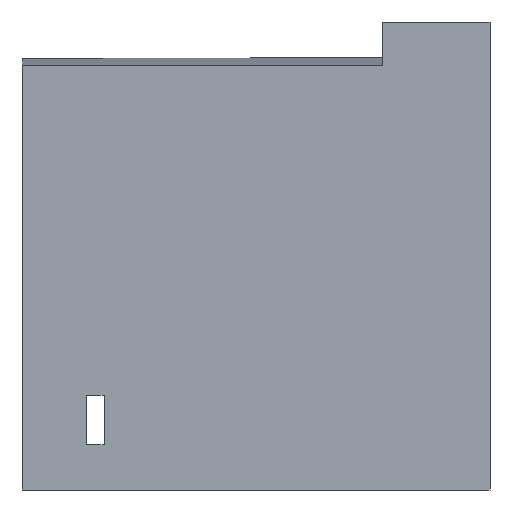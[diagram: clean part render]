
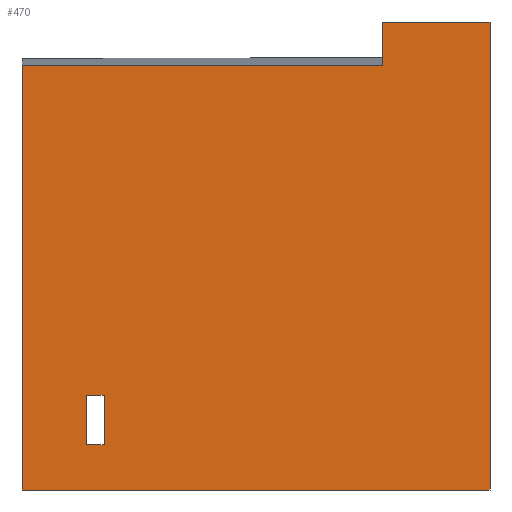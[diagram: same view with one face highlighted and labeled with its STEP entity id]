
A CAD part, front view. The second image highlights one B-rep face of the part: STEP entity #470.
In plain terms, the highlighted planar face has unit normal (0, -1, 0).
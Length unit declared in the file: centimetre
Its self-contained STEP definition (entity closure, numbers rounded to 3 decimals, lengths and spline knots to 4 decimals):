
#1 = EDGE_LOOP ( 'NONE', ( #1024, #843, #781, #1535, #1311, #383 ) ) ;
#43 = CARTESIAN_POINT ( 'NONE',  ( 0., 0., 0. ) ) ;
#44 = EDGE_CURVE ( 'NONE', #1164, #145, #1074, .T. ) ;
#61 = VERTEX_POINT ( 'NONE', #247 ) ;
#63 = EDGE_CURVE ( 'NONE', #225, #579, #1570, .T. ) ;
#71 = DIRECTION ( 'NONE',  ( 0., 1., 0. ) ) ;
#81 = DIRECTION ( 'NONE',  ( 0., 0., -1. ) ) ;
#132 = VECTOR ( 'NONE', #1415, 100. ) ;
#145 = VERTEX_POINT ( 'NONE', #753 ) ;
#152 = VECTOR ( 'NONE', #505, 100. ) ;
#158 = VERTEX_POINT ( 'NONE', #1240 ) ;
#171 = FACE_BOUND ( 'NONE', #738, .T. ) ;
#182 = AXIS2_PLACEMENT_3D ( 'NONE', #911, #71, #1268 ) ;
#183 = FACE_OUTER_BOUND ( 'NONE', #1, .T. ) ;
#186 = LINE ( 'NONE', #1178, #479 ) ;
#225 = VERTEX_POINT ( 'NONE', #43 ) ;
#247 = CARTESIAN_POINT ( 'NONE',  ( 175.5709, 0., 202.4212 ) ) ;
#249 = CARTESIAN_POINT ( 'NONE',  ( 770.0645, 0., 907.4192 ) ) ;
#262 = CARTESIAN_POINT ( 'NONE',  ( 1000., 0., 1000. ) ) ;
#282 = CARTESIAN_POINT ( 'NONE',  ( 137.1264, 0., 97.1474 ) ) ;
#361 = VECTOR ( 'NONE', #1482, 100. ) ;
#381 = CARTESIAN_POINT ( 'NONE',  ( 137.1264, 0., 97.1474 ) ) ;
#383 = ORIENTED_EDGE ( 'NONE', *, *, #817, .F. ) ;
#425 = CARTESIAN_POINT ( 'NONE',  ( 1000., 0., 1000. ) ) ;
#436 = LINE ( 'NONE', #538, #132 ) ;
#450 = EDGE_CURVE ( 'NONE', #61, #900, #1400, .T. ) ;
#470 = ADVANCED_FACE ( 'NONE', ( #171, #183 ), #653, .F. ) ;
#479 = VECTOR ( 'NONE', #809, 100. ) ;
#484 = CARTESIAN_POINT ( 'NONE',  ( 137.1264, 0., 202.4212 ) ) ;
#489 = EDGE_CURVE ( 'NONE', #1164, #158, #436, .T. ) ;
#505 = DIRECTION ( 'NONE',  ( 0., 0., -1. ) ) ;
#518 = LINE ( 'NONE', #381, #1114 ) ;
#538 = CARTESIAN_POINT ( 'NONE',  ( 770.0645, 0., 907.4192 ) ) ;
#554 = VECTOR ( 'NONE', #1483, 100. ) ;
#560 = DIRECTION ( 'NONE',  ( 1., 0., 0. ) ) ;
#579 = VERTEX_POINT ( 'NONE', #584 ) ;
#584 = CARTESIAN_POINT ( 'NONE',  ( 1000., 0., 0. ) ) ;
#585 = EDGE_CURVE ( 'NONE', #1286, #61, #1083, .T. ) ;
#595 = CARTESIAN_POINT ( 'NONE',  ( 0., 0., 0. ) ) ;
#621 = CARTESIAN_POINT ( 'NONE',  ( 0., 0., 1000. ) ) ;
#634 = VECTOR ( 'NONE', #1581, 100. ) ;
#653 = PLANE ( 'NONE',  #182 ) ;
#656 = VECTOR ( 'NONE', #560, 100. ) ;
#736 = VECTOR ( 'NONE', #1105, 100. ) ;
#738 = EDGE_LOOP ( 'NONE', ( #945, #1450, #1103, #1558 ) ) ;
#753 = CARTESIAN_POINT ( 'NONE',  ( 770.0645, 0., 1000. ) ) ;
#761 = DIRECTION ( 'NONE',  ( -1., 0., 0. ) ) ;
#772 = CARTESIAN_POINT ( 'NONE',  ( 0., 0., 1000. ) ) ;
#781 = ORIENTED_EDGE ( 'NONE', *, *, #1133, .T. ) ;
#809 = DIRECTION ( 'NONE',  ( 0., 0., 1. ) ) ;
#812 = VECTOR ( 'NONE', #81, 100. ) ;
#817 = EDGE_CURVE ( 'NONE', #145, #929, #927, .T. ) ;
#843 = ORIENTED_EDGE ( 'NONE', *, *, #489, .T. ) ;
#900 = VERTEX_POINT ( 'NONE', #1130 ) ;
#911 = CARTESIAN_POINT ( 'NONE',  ( 0., 0., 1000. ) ) ;
#927 = LINE ( 'NONE', #772, #656 ) ;
#929 = VERTEX_POINT ( 'NONE', #425 ) ;
#945 = ORIENTED_EDGE ( 'NONE', *, *, #1376, .T. ) ;
#1024 = ORIENTED_EDGE ( 'NONE', *, *, #44, .F. ) ;
#1043 = CARTESIAN_POINT ( 'NONE',  ( 175.5709, 0., 97.1474 ) ) ;
#1074 = LINE ( 'NONE', #1203, #361 ) ;
#1083 = LINE ( 'NONE', #484, #634 ) ;
#1103 = ORIENTED_EDGE ( 'NONE', *, *, #585, .T. ) ;
#1105 = DIRECTION ( 'NONE',  ( 1., 0., 0. ) ) ;
#1114 = VECTOR ( 'NONE', #761, 100. ) ;
#1130 = CARTESIAN_POINT ( 'NONE',  ( 175.5709, 0., 97.1474 ) ) ;
#1133 = EDGE_CURVE ( 'NONE', #158, #225, #1242, .T. ) ;
#1164 = VERTEX_POINT ( 'NONE', #249 ) ;
#1167 = EDGE_CURVE ( 'NONE', #929, #579, #1236, .T. ) ;
#1178 = CARTESIAN_POINT ( 'NONE',  ( 137.1264, 0., 97.1474 ) ) ;
#1203 = CARTESIAN_POINT ( 'NONE',  ( 770.0645, 0., 907.4192 ) ) ;
#1233 = VERTEX_POINT ( 'NONE', #282 ) ;
#1236 = LINE ( 'NONE', #262, #554 ) ;
#1240 = CARTESIAN_POINT ( 'NONE',  ( 0., 0., 907.4192 ) ) ;
#1242 = LINE ( 'NONE', #621, #152 ) ;
#1268 = DIRECTION ( 'NONE',  ( 0., 0., 1. ) ) ;
#1286 = VERTEX_POINT ( 'NONE', #1361 ) ;
#1311 = ORIENTED_EDGE ( 'NONE', *, *, #1167, .F. ) ;
#1361 = CARTESIAN_POINT ( 'NONE',  ( 137.1264, 0., 202.4212 ) ) ;
#1376 = EDGE_CURVE ( 'NONE', #900, #1233, #518, .T. ) ;
#1400 = LINE ( 'NONE', #1043, #812 ) ;
#1415 = DIRECTION ( 'NONE',  ( -1., 0., 0. ) ) ;
#1450 = ORIENTED_EDGE ( 'NONE', *, *, #1501, .T. ) ;
#1482 = DIRECTION ( 'NONE',  ( 0., 0., 1. ) ) ;
#1483 = DIRECTION ( 'NONE',  ( 0., 0., -1. ) ) ;
#1501 = EDGE_CURVE ( 'NONE', #1233, #1286, #186, .T. ) ;
#1535 = ORIENTED_EDGE ( 'NONE', *, *, #63, .T. ) ;
#1558 = ORIENTED_EDGE ( 'NONE', *, *, #450, .T. ) ;
#1570 = LINE ( 'NONE', #595, #736 ) ;
#1581 = DIRECTION ( 'NONE',  ( 1., 0., 0. ) ) ;
